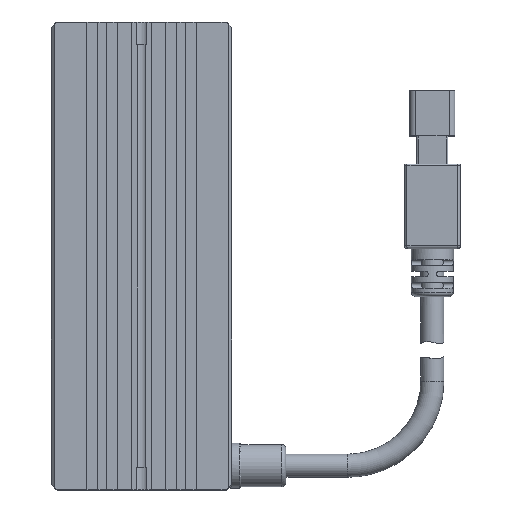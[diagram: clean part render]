
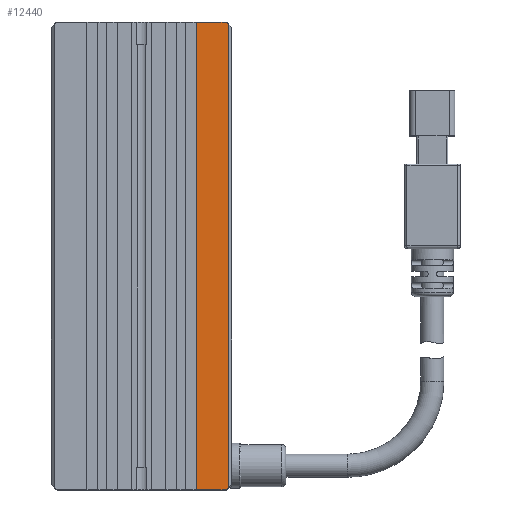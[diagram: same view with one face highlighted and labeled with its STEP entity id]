
A CAD part, top view. The second image highlights one B-rep face of the part: STEP entity #12440.
In plain terms, the highlighted planar face has unit normal (0, 0, 1).
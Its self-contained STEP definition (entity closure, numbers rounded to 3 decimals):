
#1356 = VERTEX_POINT ( 'NONE', #23617 ) ;
#1549 = EDGE_LOOP ( 'NONE', ( #12327, #19064, #22913, #7048, #13498, #28378 ) ) ;
#1605 = VECTOR ( 'NONE', #15721, 1000. ) ;
#1737 = LINE ( 'NONE', #24713, #24046 ) ;
#2210 = CARTESIAN_POINT ( 'NONE',  ( 15.5, 41., 12.5 ) ) ;
#2465 = DIRECTION ( 'NONE',  ( -1., 0., 0. ) ) ;
#2548 = DIRECTION ( 'NONE',  ( 0., 0., -1. ) ) ;
#2957 = CARTESIAN_POINT ( 'NONE',  ( 15.5, 41.5, 12.5 ) ) ;
#3051 = DIRECTION ( 'NONE',  ( 1., 0., 0. ) ) ;
#3129 = DIRECTION ( 'NONE',  ( 0., -1., 0. ) ) ;
#3188 = VERTEX_POINT ( 'NONE', #8143 ) ;
#3626 = DIRECTION ( 'NONE',  ( -0.707, 0.707, 0. ) ) ;
#3730 = CARTESIAN_POINT ( 'NONE',  ( 15., 41.5, 12.5 ) ) ;
#4019 = VERTEX_POINT ( 'NONE', #3730 ) ;
#4100 = LINE ( 'NONE', #12572, #26755 ) ;
#4474 = EDGE_CURVE ( 'NONE', #24960, #1356, #1737, .T. ) ;
#4880 = EDGE_CURVE ( 'NONE', #24960, #4019, #6492, .T. ) ;
#5567 = EDGE_CURVE ( 'NONE', #14857, #13497, #4100, .T. ) ;
#5862 = LINE ( 'NONE', #2957, #11012 ) ;
#6492 = LINE ( 'NONE', #7792, #27084 ) ;
#6989 = PLANE ( 'NONE',  #21418 ) ;
#7048 = ORIENTED_EDGE ( 'NONE', *, *, #5567, .T. ) ;
#7792 = CARTESIAN_POINT ( 'NONE',  ( 15., 41.5, 12.5 ) ) ;
#8143 = CARTESIAN_POINT ( 'NONE',  ( 15., -41.5, 12.5 ) ) ;
#9038 = CARTESIAN_POINT ( 'NONE',  ( 9.7, 41.5, 12.5 ) ) ;
#11012 = VECTOR ( 'NONE', #3051, 1000. ) ;
#12170 = CARTESIAN_POINT ( 'NONE',  ( 9.7, -41.5, 12.5 ) ) ;
#12327 = ORIENTED_EDGE ( 'NONE', *, *, #4474, .F. ) ;
#12440 = ADVANCED_FACE ( 'NONE', ( #25950 ), #6989, .F. ) ;
#12572 = CARTESIAN_POINT ( 'NONE',  ( 9.7, 41.5, 12.5 ) ) ;
#13160 = DIRECTION ( 'NONE',  ( 0.707, 0.707, 0. ) ) ;
#13458 = CARTESIAN_POINT ( 'NONE',  ( 15.5, 41.5, 12.5 ) ) ;
#13497 = VERTEX_POINT ( 'NONE', #12170 ) ;
#13498 = ORIENTED_EDGE ( 'NONE', *, *, #16701, .T. ) ;
#14325 = LINE ( 'NONE', #20224, #1605 ) ;
#14857 = VERTEX_POINT ( 'NONE', #9038 ) ;
#15721 = DIRECTION ( 'NONE',  ( 1., 0., 0. ) ) ;
#16701 = EDGE_CURVE ( 'NONE', #13497, #3188, #14325, .T. ) ;
#19064 = ORIENTED_EDGE ( 'NONE', *, *, #4880, .T. ) ;
#20224 = CARTESIAN_POINT ( 'NONE',  ( 15.5, -41.5, 12.5 ) ) ;
#20657 = EDGE_CURVE ( 'NONE', #3188, #1356, #22384, .T. ) ;
#21363 = DIRECTION ( 'NONE',  ( 0., -1., 0. ) ) ;
#21418 = AXIS2_PLACEMENT_3D ( 'NONE', #13458, #2548, #2465 ) ;
#22384 = LINE ( 'NONE', #23571, #27553 ) ;
#22913 = ORIENTED_EDGE ( 'NONE', *, *, #28345, .F. ) ;
#23571 = CARTESIAN_POINT ( 'NONE',  ( 16., -40.5, 12.5 ) ) ;
#23617 = CARTESIAN_POINT ( 'NONE',  ( 15.5, -41., 12.5 ) ) ;
#24046 = VECTOR ( 'NONE', #3129, 1000. ) ;
#24713 = CARTESIAN_POINT ( 'NONE',  ( 15.5, 41.5, 12.5 ) ) ;
#24960 = VERTEX_POINT ( 'NONE', #2210 ) ;
#25950 = FACE_OUTER_BOUND ( 'NONE', #1549, .T. ) ;
#26755 = VECTOR ( 'NONE', #21363, 1000. ) ;
#27084 = VECTOR ( 'NONE', #3626, 1000. ) ;
#27553 = VECTOR ( 'NONE', #13160, 1000. ) ;
#28345 = EDGE_CURVE ( 'NONE', #14857, #4019, #5862, .T. ) ;
#28378 = ORIENTED_EDGE ( 'NONE', *, *, #20657, .T. ) ;
